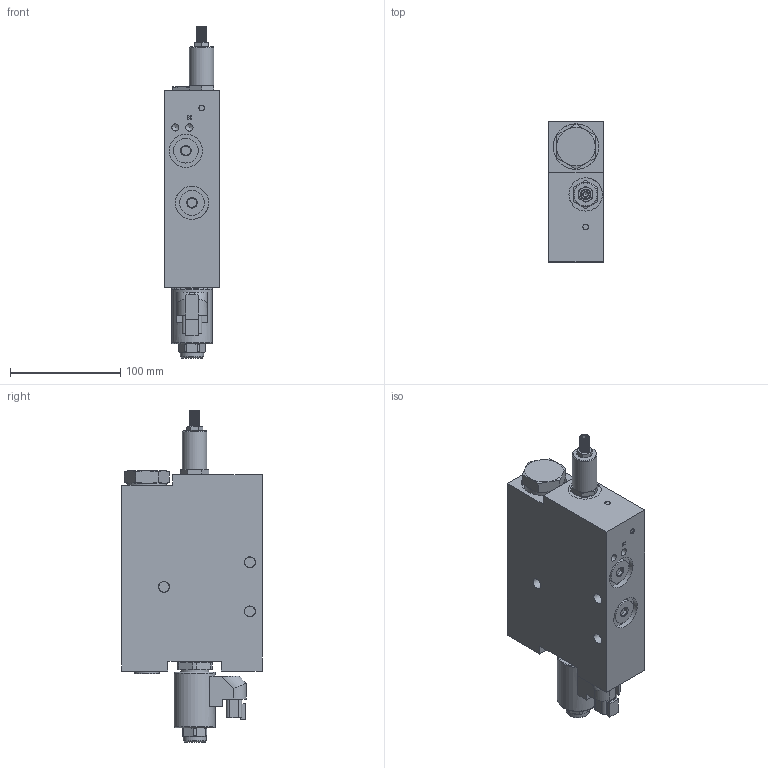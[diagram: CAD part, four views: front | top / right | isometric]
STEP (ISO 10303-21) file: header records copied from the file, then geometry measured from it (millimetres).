
FILE_DESCRIPTION((''),'2;1');
FILE_NAME('C:\Vault\Workspace\z_ShellModels\S20\20IF15P12D_Shell.stp','2012-03-19T16:01:25',('PetersW'),(''),'Autodesk Inventor 2012','Autodesk Inventor 2012','');
FILE_SCHEMA(('AUTOMOTIVE_DESIGN { 1 0 10303 214 1 1 1 1 }'));
Length unit declared in the file: inch
Products named in the file (1): Part3
Bounding box: 49.23 x 127 x 300.58 mm (x, y, z)
Volume: 1148564.5 mm3; surface area: 116310.3 mm2
Topology: 1 solids, 6 shells, 426 faces, 986 edges, 619 vertices
Faces by surface type: plane 204, cone 130, cylinder 80, torus 10, bspline 2
Full cylindrical faces by diameter (mm): 1.96 x2, 4.775 x1, 5.004 x3, 6.401 x1, 6.655 x1, 7.144 x1, 9.525 x6, 9.931 x3, 11.189 x1, 12.611 x1, 13.462 x3, 16.764 x2, 17.475 x1, 18 x1, 18.034 x1, 18.923 x1, 19.05 x3, 19.075 x1, 19.4 x1, 20.625 x3, 21 x1, 22.225 x2, 22.352 x3, 24.917 x1, 25.4 x1, 30.175 x4, 34.925 x1, 37.084 x1, 41.275 x3
Entity records: 11348 total; most frequent: CARTESIAN_POINT 2359, DIRECTION 1742, ORIENTED_EDGE 1676, EDGE_CURVE 838, AXIS2_PLACEMENT_3D 723, EDGE_LOOP 590, VERTEX_POINT 580, FACE_OUTER_BOUND 426
